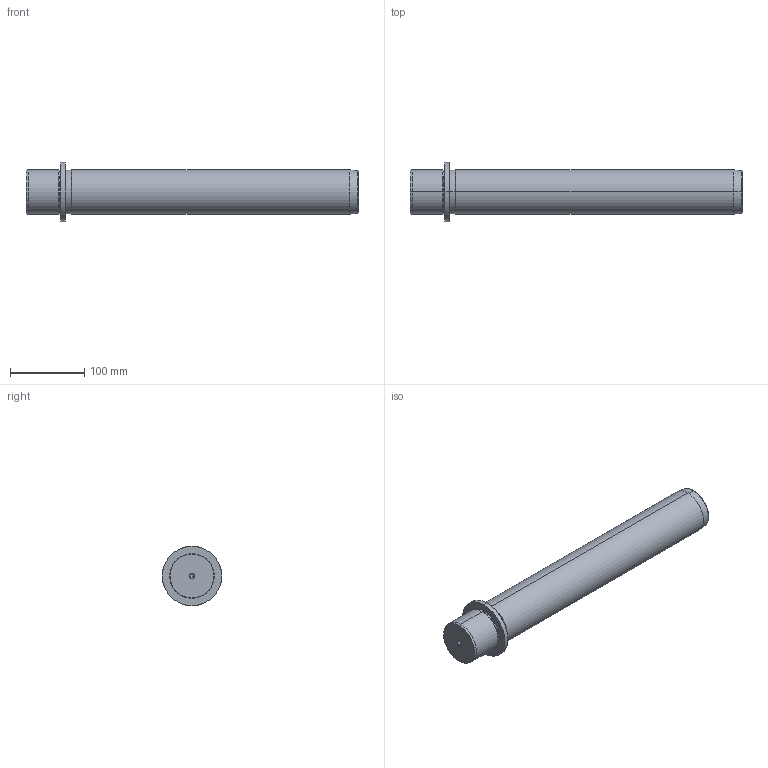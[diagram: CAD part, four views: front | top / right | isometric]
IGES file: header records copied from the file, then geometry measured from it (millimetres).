
Start section: START RECORD GO HERE.
Global section: file name: 719-60x400.igs; native system: DASSAULT SYSTEMES CATIA V5 R20 - www.3ds.com; preprocessor: CATIA Version 5 Release 20 ; author: Utente; organization: NB04-ASUS; date: 20210103.154912; units: millimetre
Bounding box: 447 x 80 x 80 mm (x, y, z)
Surface area: 95435.8 mm2 (no closed solid volume)
Topology: 0 solids, 0 shells, 36 faces, 196 edges, 192 vertices
Faces by surface type: revolution 32, plane 4
